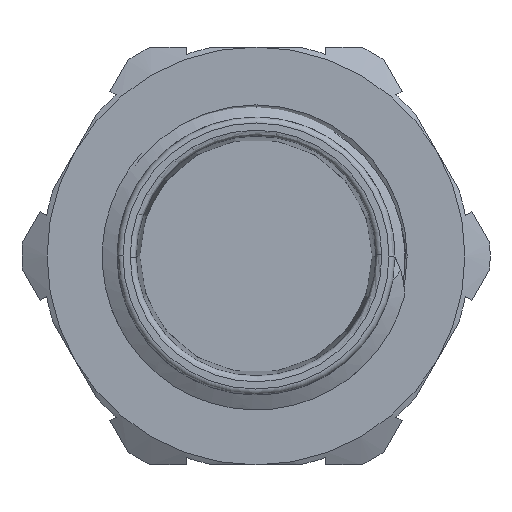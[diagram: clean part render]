
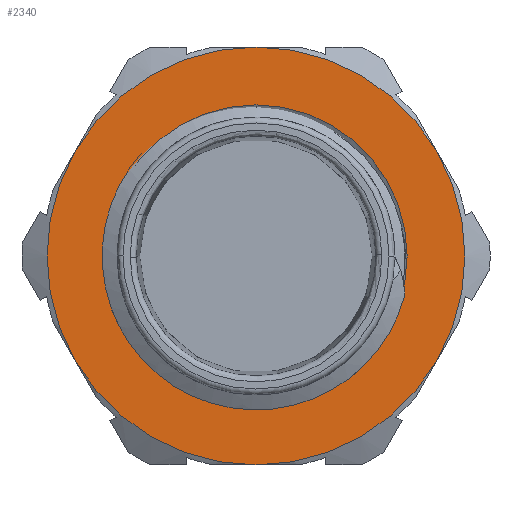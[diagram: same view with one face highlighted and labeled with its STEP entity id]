
A CAD part, front view. The second image highlights one B-rep face of the part: STEP entity #2340.
In plain terms, the highlighted planar face has unit normal (0, -1, 0) as drawn and (0, 1, 0) by its records, which use the part's own axes.
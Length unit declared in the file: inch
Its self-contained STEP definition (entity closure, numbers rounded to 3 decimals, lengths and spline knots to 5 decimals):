
#1 = DIRECTION ( 'NONE',  ( 0., -1., 0. ) ) ;
#117 = DIRECTION ( 'NONE',  ( 0., -1., 0. ) ) ;
#168 = CIRCLE ( 'NONE', #19798, 0.531 ) ;
#181 = CARTESIAN_POINT ( 'NONE',  ( -0.45986, 0.245, 0.2655 ) ) ;
#338 = VERTEX_POINT ( 'NONE', #5502 ) ;
#638 = EDGE_CURVE ( 'NONE', #20067, #6491, #14553, .T. ) ;
#847 = EDGE_CURVE ( 'NONE', #6446, #4204, #21772, .T. ) ;
#2340 = ADVANCED_FACE ( 'NONE', ( #5367, #6479 ), #3361, .T. ) ;
#2551 = CARTESIAN_POINT ( 'NONE',  ( 0., 0.245, 0. ) ) ;
#3361 = PLANE ( 'NONE',  #14820 ) ;
#3717 = AXIS2_PLACEMENT_3D ( 'NONE', #7997, #20343, #9758 ) ;
#4204 = VERTEX_POINT ( 'NONE', #15422 ) ;
#4339 = DIRECTION ( 'NONE',  ( 0., -1., 0. ) ) ;
#4656 = DIRECTION ( 'NONE',  ( 0., 0., 1. ) ) ;
#5134 = DIRECTION ( 'NONE',  ( 0., 0., 1. ) ) ;
#5179 = DIRECTION ( 'NONE',  ( 0., -1., 0. ) ) ;
#5367 = FACE_BOUND ( 'NONE', #12029, .T. ) ;
#5502 = CARTESIAN_POINT ( 'NONE',  ( -0.45986, 0.245, -0.2655 ) ) ;
#6388 = ORIENTED_EDGE ( 'NONE', *, *, #22151, .F. ) ;
#6446 = VERTEX_POINT ( 'NONE', #16935 ) ;
#6479 = FACE_OUTER_BOUND ( 'NONE', #18649, .T. ) ;
#6491 = VERTEX_POINT ( 'NONE', #9979 ) ;
#6804 = ORIENTED_EDGE ( 'NONE', *, *, #10368, .F. ) ;
#7102 = VERTEX_POINT ( 'NONE', #16694 ) ;
#7908 = DIRECTION ( 'NONE',  ( 0., -1., 0. ) ) ;
#7986 = VERTEX_POINT ( 'NONE', #9834 ) ;
#7997 = CARTESIAN_POINT ( 'NONE',  ( 0., 0.245, 0. ) ) ;
#9130 = AXIS2_PLACEMENT_3D ( 'NONE', #10704, #1, #12479 ) ;
#9217 = EDGE_CURVE ( 'NONE', #7986, #7102, #12172, .T. ) ;
#9284 = CARTESIAN_POINT ( 'NONE',  ( 0., 0.245, 0. ) ) ;
#9741 = ORIENTED_EDGE ( 'NONE', *, *, #9217, .F. ) ;
#9758 = DIRECTION ( 'NONE',  ( 0., 0., -1. ) ) ;
#9764 = CARTESIAN_POINT ( 'NONE',  ( 0., 0.245, 0. ) ) ;
#9834 = CARTESIAN_POINT ( 'NONE',  ( 0., 0.245, -0.531 ) ) ;
#9979 = CARTESIAN_POINT ( 'NONE',  ( 0., 0.245, 0.531 ) ) ;
#10154 = VERTEX_POINT ( 'NONE', #181 ) ;
#10368 = EDGE_CURVE ( 'NONE', #4204, #6446, #21808, .T. ) ;
#10704 = CARTESIAN_POINT ( 'NONE',  ( 0., 0.245, 0. ) ) ;
#10820 = CARTESIAN_POINT ( 'NONE',  ( 0., 0.245, 0. ) ) ;
#11021 = CIRCLE ( 'NONE', #20509, 0.531 ) ;
#11069 = DIRECTION ( 'NONE',  ( 0., 0., 1. ) ) ;
#11811 = AXIS2_PLACEMENT_3D ( 'NONE', #18456, #7908, #20247 ) ;
#12029 = EDGE_LOOP ( 'NONE', ( #14058, #6804 ) ) ;
#12172 = CIRCLE ( 'NONE', #20442, 0.531 ) ;
#12479 = DIRECTION ( 'NONE',  ( 0.866, 0., -0.5 ) ) ;
#12585 = DIRECTION ( 'NONE',  ( 0., 0., -1. ) ) ;
#13677 = ORIENTED_EDGE ( 'NONE', *, *, #638, .F. ) ;
#14058 = ORIENTED_EDGE ( 'NONE', *, *, #847, .F. ) ;
#14553 = CIRCLE ( 'NONE', #15844, 0.531 ) ;
#14820 = AXIS2_PLACEMENT_3D ( 'NONE', #17403, #15710, #5134 ) ;
#15397 = CARTESIAN_POINT ( 'NONE',  ( 0.45986, 0.245, 0.2655 ) ) ;
#15422 = CARTESIAN_POINT ( 'NONE',  ( 0., 0.245, -0.384 ) ) ;
#15710 = DIRECTION ( 'NONE',  ( 0., 1., 0. ) ) ;
#15750 = CARTESIAN_POINT ( 'NONE',  ( 0., 0.245, 0. ) ) ;
#15844 = AXIS2_PLACEMENT_3D ( 'NONE', #2551, #4339, #18450 ) ;
#16406 = EDGE_CURVE ( 'NONE', #7102, #20067, #18201, .T. ) ;
#16694 = CARTESIAN_POINT ( 'NONE',  ( 0.45986, 0.245, -0.2655 ) ) ;
#16935 = CARTESIAN_POINT ( 'NONE',  ( 0., 0.245, 0.384 ) ) ;
#17011 = AXIS2_PLACEMENT_3D ( 'NONE', #9764, #20583, #4656 ) ;
#17250 = EDGE_CURVE ( 'NONE', #6491, #10154, #11021, .T. ) ;
#17357 = CIRCLE ( 'NONE', #11811, 0.531 ) ;
#17403 = CARTESIAN_POINT ( 'NONE',  ( 0., 0.245, 0. ) ) ;
#17512 = DIRECTION ( 'NONE',  ( -0.866, 0., -0.5 ) ) ;
#18201 = CIRCLE ( 'NONE', #9130, 0.531 ) ;
#18450 = DIRECTION ( 'NONE',  ( 0.866, 0., 0.5 ) ) ;
#18456 = CARTESIAN_POINT ( 'NONE',  ( 0., 0.245, 0. ) ) ;
#18468 = ORIENTED_EDGE ( 'NONE', *, *, #16406, .F. ) ;
#18649 = EDGE_LOOP ( 'NONE', ( #13677, #18468, #9741, #21759, #6388, #20236 ) ) ;
#19798 = AXIS2_PLACEMENT_3D ( 'NONE', #15750, #5179, #17512 ) ;
#20067 = VERTEX_POINT ( 'NONE', #15397 ) ;
#20236 = ORIENTED_EDGE ( 'NONE', *, *, #17250, .F. ) ;
#20247 = DIRECTION ( 'NONE',  ( -0.866, 0., 0.5 ) ) ;
#20343 = DIRECTION ( 'NONE',  ( 0., 1., 0. ) ) ;
#20442 = AXIS2_PLACEMENT_3D ( 'NONE', #10820, #117, #12585 ) ;
#20509 = AXIS2_PLACEMENT_3D ( 'NONE', #9284, #21661, #11069 ) ;
#20583 = DIRECTION ( 'NONE',  ( 0., 1., 0. ) ) ;
#21164 = EDGE_CURVE ( 'NONE', #338, #7986, #168, .T. ) ;
#21661 = DIRECTION ( 'NONE',  ( 0., -1., 0. ) ) ;
#21759 = ORIENTED_EDGE ( 'NONE', *, *, #21164, .F. ) ;
#21772 = CIRCLE ( 'NONE', #17011, 0.384 ) ;
#21808 = CIRCLE ( 'NONE', #3717, 0.384 ) ;
#22151 = EDGE_CURVE ( 'NONE', #10154, #338, #17357, .T. ) ;
